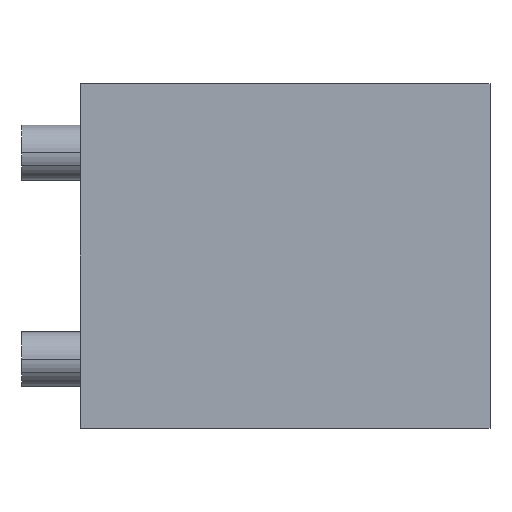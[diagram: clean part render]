
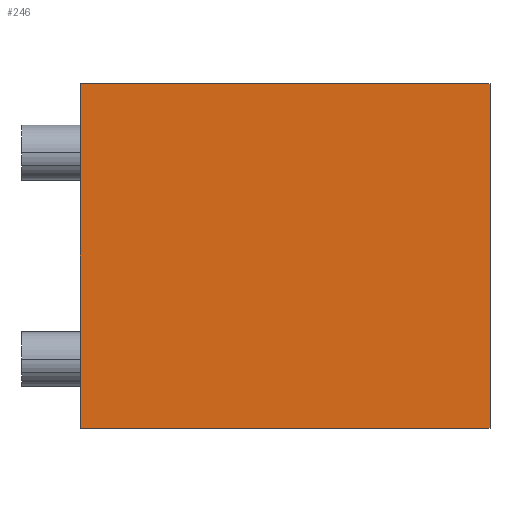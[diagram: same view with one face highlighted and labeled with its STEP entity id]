
A CAD part, front view. The second image highlights one B-rep face of the part: STEP entity #246.
In plain terms, the highlighted planar face has unit normal (0, -1, 0).
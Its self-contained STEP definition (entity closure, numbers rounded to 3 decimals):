
#246=ADVANCED_FACE('Pad.1',(#552),#553,.F.);
#552=FACE_OUTER_BOUND('',#952,.T.);
#553=PLANE('',#953);
#952=EDGE_LOOP('',(#1517,#1518,#1519,#1520));
#953=AXIS2_PLACEMENT_3D('',#1521,#1522,#1523);
#1517=ORIENTED_EDGE('',*,*,#2403,.T.);
#1518=ORIENTED_EDGE('',*,*,#2413,.T.);
#1519=ORIENTED_EDGE('',*,*,#2414,.F.);
#1520=ORIENTED_EDGE('',*,*,#2377,.F.);
#1521=CARTESIAN_POINT('',(-59.5,-72.5,25.0));
#1522=DIRECTION('',(-0.0,1.0,0.0));
#1523=DIRECTION('',(1.0,0.0,0.0));
#2377=EDGE_CURVE('',#2867,#2869,#2870,.T.);
#2403=EDGE_CURVE('',#2867,#2902,#2904,.T.);
#2413=EDGE_CURVE('',#2902,#2918,#2919,.T.);
#2414=EDGE_CURVE('',#2869,#2918,#2920,.T.);
#2867=VERTEX_POINT('',#3559);
#2869=VERTEX_POINT('',#3562);
#2870=LINE('',#3563,#3564);
#2902=VERTEX_POINT('',#3610);
#2904=LINE('',#3613,#3614);
#2918=VERTEX_POINT('',#3628);
#2919=LINE('',#3629,#3630);
#2920=LINE('',#3631,#3632);
#3559=CARTESIAN_POINT('',(-59.5,-72.5,25.0));
#3562=CARTESIAN_POINT('',(0.0,-72.5,25.0));
#3563=CARTESIAN_POINT('',(-29.75,-72.5,25.0));
#3564=VECTOR('',#4235,1.0);
#3610=CARTESIAN_POINT('',(-59.5,-72.5,-25.0));
#3613=CARTESIAN_POINT('',(-59.5,-72.5,0.0));
#3614=VECTOR('',#4257,1.0);
#3628=CARTESIAN_POINT('',(0.0,-72.5,-25.0));
#3629=CARTESIAN_POINT('',(-29.75,-72.5,-25.0));
#3630=VECTOR('',#4282,1.0);
#3631=CARTESIAN_POINT('',(0.0,-72.5,0.0));
#3632=VECTOR('',#4283,1.0);
#4235=DIRECTION('',(1.0,0.0,0.0));
#4257=DIRECTION('',(0.0,0.0,-1.0));
#4282=DIRECTION('',(1.0,0.0,0.0));
#4283=DIRECTION('',(0.0,0.0,-1.0));
